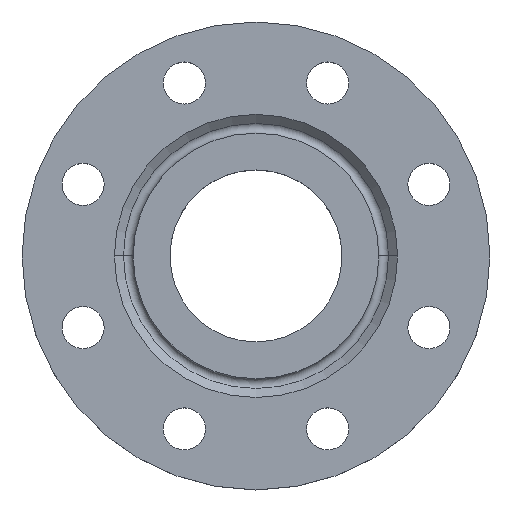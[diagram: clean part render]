
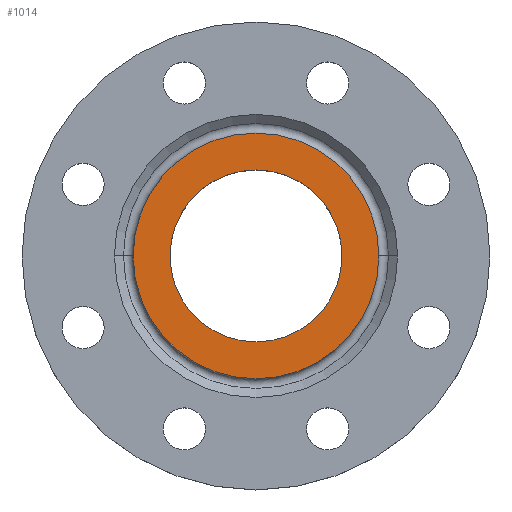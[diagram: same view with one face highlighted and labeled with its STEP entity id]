
A CAD part, top view. The second image highlights one B-rep face of the part: STEP entity #1014.
In plain terms, the highlighted planar face has unit normal (0, 0, 1).
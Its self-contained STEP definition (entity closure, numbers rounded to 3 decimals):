
#96 = DIRECTION ( 'NONE',  ( 1., 0., 0. ) ) ;
#101 = DIRECTION ( 'NONE',  ( 0., 0., 1. ) ) ;
#104 = CARTESIAN_POINT ( 'NONE',  ( 0., 0., 0. ) ) ;
#105 = PLANE ( 'NONE',  #827 ) ;
#107 = FACE_OUTER_BOUND ( 'NONE', #694, .T. ) ;
#108 = FACE_BOUND ( 'NONE', #672, .T. ) ;
#121 = DIRECTION ( 'NONE',  ( -1., 0., 0. ) ) ;
#122 = DIRECTION ( 'NONE',  ( 0., 0., -1. ) ) ;
#123 = CARTESIAN_POINT ( 'NONE',  ( 0., 0., 0. ) ) ;
#126 = CARTESIAN_POINT ( 'NONE',  ( 36.753, 0., 0. ) ) ;
#158 = DIRECTION ( 'NONE',  ( 1., 0., 0. ) ) ;
#159 = DIRECTION ( 'NONE',  ( 0., 0., 1. ) ) ;
#160 = CARTESIAN_POINT ( 'NONE',  ( 0., 0., 0. ) ) ;
#196 = CARTESIAN_POINT ( 'NONE',  ( -52.5, 0., 0. ) ) ;
#221 = CARTESIAN_POINT ( 'NONE',  ( -36.753, 0., 0. ) ) ;
#238 = AXIS2_PLACEMENT_3D ( 'NONE', #160, #159, #158 ) ;
#259 = CARTESIAN_POINT ( 'NONE',  ( 52.5, 0., 0. ) ) ;
#366 = DIRECTION ( 'NONE',  ( -1., 0., 0. ) ) ;
#367 = DIRECTION ( 'NONE',  ( 0., 0., -1. ) ) ;
#368 = CARTESIAN_POINT ( 'NONE',  ( 0., 0., 0. ) ) ;
#433 = DIRECTION ( 'NONE',  ( 1., 0., 0. ) ) ;
#434 = DIRECTION ( 'NONE',  ( 0., 0., 1. ) ) ;
#435 = CARTESIAN_POINT ( 'NONE',  ( 0., 0., 0. ) ) ;
#484 = CIRCLE ( 'NONE', #512, 52.5 ) ;
#512 = AXIS2_PLACEMENT_3D ( 'NONE', #368, #367, #366 ) ;
#534 = EDGE_CURVE ( 'NONE', #900, #919, #826, .T. ) ;
#595 = AXIS2_PLACEMENT_3D ( 'NONE', #435, #434, #433 ) ;
#672 = EDGE_LOOP ( 'NONE', ( #1084, #1085 ) ) ;
#694 = EDGE_LOOP ( 'NONE', ( #1086, #1087 ) ) ;
#745 = EDGE_CURVE ( 'NONE', #925, #878, #484, .T. ) ;
#807 = CIRCLE ( 'NONE', #810, 52.5 ) ;
#810 = AXIS2_PLACEMENT_3D ( 'NONE', #123, #122, #121 ) ;
#816 = CIRCLE ( 'NONE', #238, 36.753 ) ;
#826 = CIRCLE ( 'NONE', #595, 36.753 ) ;
#827 = AXIS2_PLACEMENT_3D ( 'NONE', #104, #101, #96 ) ;
#878 = VERTEX_POINT ( 'NONE', #259 ) ;
#900 = VERTEX_POINT ( 'NONE', #221 ) ;
#909 = EDGE_CURVE ( 'NONE', #919, #900, #816, .T. ) ;
#919 = VERTEX_POINT ( 'NONE', #126 ) ;
#925 = VERTEX_POINT ( 'NONE', #196 ) ;
#1001 = EDGE_CURVE ( 'NONE', #878, #925, #807, .T. ) ;
#1014 = ADVANCED_FACE ( 'NONE', ( #108, #107 ), #105, .T. ) ;
#1084 = ORIENTED_EDGE ( 'NONE', *, *, #909, .F. ) ;
#1085 = ORIENTED_EDGE ( 'NONE', *, *, #534, .F. ) ;
#1086 = ORIENTED_EDGE ( 'NONE', *, *, #745, .F. ) ;
#1087 = ORIENTED_EDGE ( 'NONE', *, *, #1001, .F. ) ;
